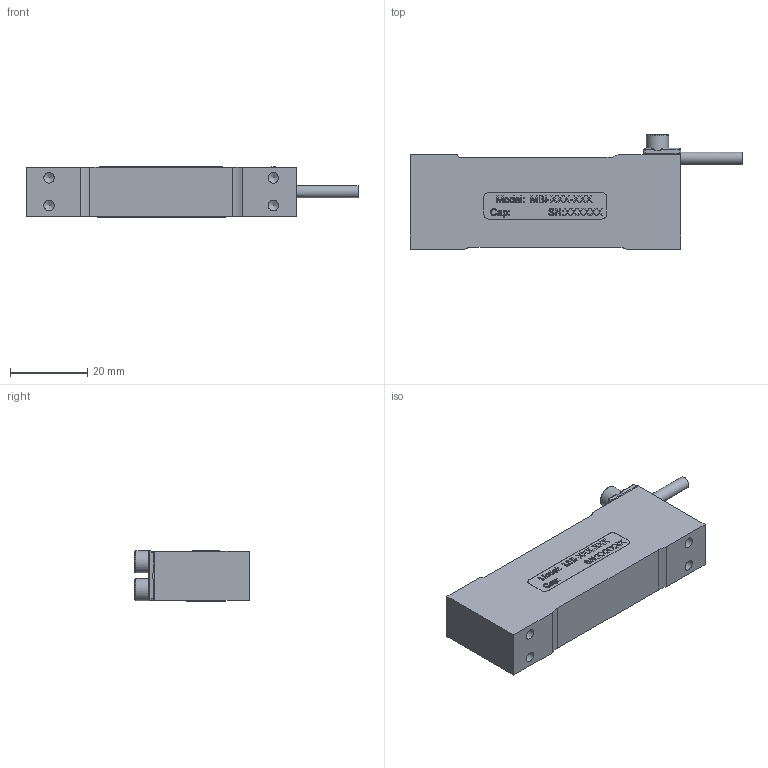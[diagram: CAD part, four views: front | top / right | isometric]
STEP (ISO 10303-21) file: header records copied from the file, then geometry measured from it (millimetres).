
FILE_DESCRIPTION (( 'STEP AP203' ), '1' );
FILE_NAME ('80364.STEP', '2017-01-26T22:29:22', ( '' ), ( '' ), 'SwSTEP 2.0', 'SolidWorks 2016', '' );
FILE_SCHEMA (( 'CONFIG_CONTROL_DESIGN' ));
Length unit declared in the file: inch
Products named in the file (1): 80364
Bounding box: 85.72 x 29.49 x 13.04 mm (x, y, z)
Volume: 21169 mm3; surface area: 6773 mm2
Topology: 1 solids, 1 shells, 1553 faces, 4185 edges, 2776 vertices
Faces by surface type: plane 874, bspline 614, cylinder 59, cone 6
Full cylindrical faces by diameter (mm): 2.705 x6, 3.175 x1, 5.74 x2
Entity records: 77279 total; most frequent: CARTESIAN_POINT 42536, ORIENTED_EDGE 8294, DIRECTION 4922, EDGE_CURVE 4147, LINE 2812, VECTOR 2812, VERTEX_POINT 2761, EDGE_LOOP 1718
